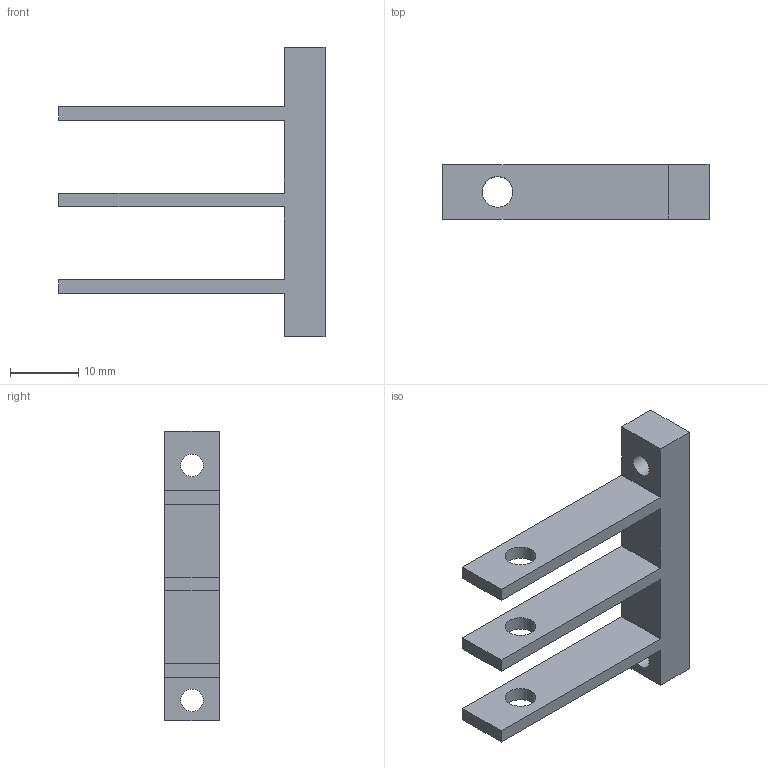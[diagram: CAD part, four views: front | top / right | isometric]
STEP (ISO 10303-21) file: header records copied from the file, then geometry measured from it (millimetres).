
FILE_DESCRIPTION(('FreeCAD Model'),'2;1');
FILE_NAME('Open CASCADE Shape Model','2026-10-30T14:44:41',('FreeCAD'),( 'FreeCAD'),'Open CASCADE STEP processor 7.8','FreeCAD','Unknown');
FILE_SCHEMA(('AUTOMOTIVE_DESIGN { 1 0 10303 214 1 1 1 1 }'));
Length unit declared in the file: millimetre
Products named in the file (1): Open CASCADE STEP translator 7.8 5
Bounding box: 39 x 8 x 42.45 mm (x, y, z)
Volume: 3423.5 mm3; surface area: 3344.2 mm2
Topology: 1 solids, 1 shells, 23 faces, 63 edges, 42 vertices
Faces by surface type: plane 18, cylinder 5
Full cylindrical faces by diameter (mm): 3.3 x2, 4.5 x3
Entity records: 757 total; most frequent: CARTESIAN_POINT 129, ORIENTED_EDGE 126, DIRECTION 121, EDGE_CURVE 63, LINE 53, VECTOR 53, VERTEX_POINT 42, AXIS2_PLACEMENT_3D 34
